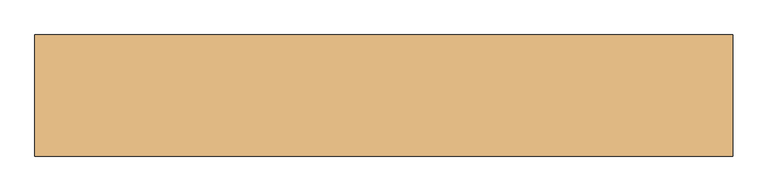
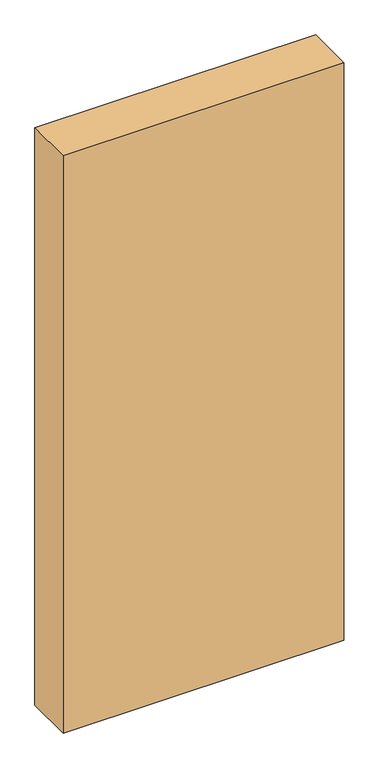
"""IFC4 building model written with IfcOpenShell, lengths in millimetres: door geometry, Dr_Проем-Простой : ДВ."""

import ifcopenshell
import ifcopenshell.guid

model = None  # the IFC model being written
_history = None  # IfcOwnerHistory: only IFC2X3 demands one
_inside = {}  # id of a spatial element -> (the spatial element, [elements in it])
_under = {}  # id of a project, library or spatial element -> (it, [spatial elements below it])
_declared = {}  # id of a project -> (the project, [libraries it declares])
_typed = {}  # id of a type object -> (the type object, [elements of that type])
_made_of = {}  # id of a material, layer set ... -> (it, [elements and type objects made of it])


def new_model(schema):
    """Start an empty IFC model of exactly this schema.

    Asked for "IFC4X3", IfcOpenShell would pick the latest addendum, in which some entities
    have other attributes; the version numbers below select the first issue.
    IFC2X3 requires an IfcOwnerHistory on every rooted entity: one is made here for all.
    """
    global model, _history
    if schema == "IFC4X3":
        model = ifcopenshell.file(schema_version=(4, 3, 0, 0))
    else:
        model = ifcopenshell.file(schema=schema)
    _inside.clear()
    _under.clear()
    _declared.clear()
    _typed.clear()
    _made_of.clear()
    _history = None
    if model.schema == "IFC2X3":
        org = make("IfcOrganization", Name="unknown")
        user = make(
            "IfcPersonAndOrganization",
            ThePerson=make("IfcPerson", FamilyName="unknown"),
            TheOrganization=org,
        )
        app = make(
            "IfcApplication",
            ApplicationDeveloper=org,
            Version="unknown",
            ApplicationFullName="unknown",
            ApplicationIdentifier="unknown",
        )
        _history = make(
            "IfcOwnerHistory",
            OwningUser=user,
            OwningApplication=app,
            ChangeAction="ADDED",
            CreationDate=0,
        )
    return model


def make(cls, **values):
    """One entity of the class cls with the attributes given. An attribute that is None is left unset."""
    return model.create_entity(
        cls, **{name: value for name, value in values.items() if value is not None}
    )


def rooted(cls, **values):
    """An entity with a GlobalId (a new one), such as an element, a storey or a relation."""
    return make(cls, GlobalId=ifcopenshell.guid.new(), OwnerHistory=_history, **values)


def si_unit(unit_type, name, prefix=None):
    """IfcSIUnit, for example si_unit("LENGTHUNIT", "METRE", prefix="MILLI")."""
    return make("IfcSIUnit", UnitType=unit_type, Prefix=prefix, Name=name)


def assignment(units):
    """IfcUnitAssignment: the units of a project."""
    return None if units is None else make("IfcUnitAssignment", Units=units)


def point(xyz):
    """IfcCartesianPoint."""
    return None if xyz is None else make("IfcCartesianPoint", Coordinates=xyz)


def direction(xyz):
    """IfcDirection."""
    return None if xyz is None else make("IfcDirection", DirectionRatios=xyz)


def frame(location, z_axis=None, x_axis=None):
    """IfcAxis2Placement3D, a coordinate frame: its origin and axes. An axis left out is left unset."""
    return make(
        "IfcAxis2Placement3D",
        Location=point(location),
        Axis=direction(z_axis),
        RefDirection=direction(x_axis),
    )


def origin():
    """The frame at (0, 0, 0) with its axes left unset."""
    return frame((0.0, 0.0, 0.0))


def place(relative_to, where):
    """IfcLocalPlacement: puts the frame where relative to a parent placement (None: the world)."""
    return make(
        "IfcLocalPlacement", PlacementRelTo=relative_to, RelativePlacement=where
    )


def context(
    kind, dimensions, precision=None, world=None, true_north=None, identifier=None
):
    """IfcGeometricRepresentationContext, for example the 3D "Model" context."""
    return make(
        "IfcGeometricRepresentationContext",
        ContextIdentifier=identifier,
        ContextType=kind,
        CoordinateSpaceDimension=dimensions,
        Precision=precision,
        WorldCoordinateSystem=world,
        TrueNorth=true_north,
    )


def project(units=None, contexts=None):
    """IfcProject with its units and contexts."""
    return rooted(
        "IfcProject",
        Name="project",
        RepresentationContexts=contexts,
        UnitsInContext=assignment(units),
    )


def spatial(cls, under=None, at=None, **own):
    """A site, building, storey or space (cls), placed at a placement, below another one or the project."""
    s = rooted(cls, ObjectPlacement=at, **own)
    if under is not None:
        _under.setdefault(under.id(), (under, []))[1].append(s)
    return s


def polyline(points):
    """IfcPolyline through the points."""
    return make("IfcPolyline", Points=[point(p) for p in points])


def outline(outer, holes=None, kind="AREA"):
    """IfcArbitraryClosedProfileDef: a profile drawn as a closed curve; with holes, ...WithVoids."""
    if holes is None:
        return make("IfcArbitraryClosedProfileDef", ProfileType=kind, OuterCurve=outer)
    return make(
        "IfcArbitraryProfileDefWithVoids",
        ProfileType=kind,
        OuterCurve=outer,
        InnerCurves=holes,
    )


def extrude(swept, where, along, depth):
    """IfcExtrudedAreaSolid: the profile swept, set in the frame where, extruded along a direction by depth."""
    return make(
        "IfcExtrudedAreaSolid",
        SweptArea=swept,
        Position=where,
        ExtrudedDirection=direction(along),
        Depth=depth,
    )


def shape(context_of_items, identifier, shape_type, items):
    """IfcShapeRepresentation: the items that make up one representation, for example the "Body"."""
    return make(
        "IfcShapeRepresentation",
        ContextOfItems=context_of_items,
        RepresentationIdentifier=identifier,
        RepresentationType=shape_type,
        Items=items,
    )


def source(mapping_origin, context_of_items, identifier, shape_type, items):
    """IfcRepresentationMap: a shape defined once, which mapped items show again and again."""
    return make(
        "IfcRepresentationMap",
        MappingOrigin=mapping_origin,
        MappedRepresentation=shape(context_of_items, identifier, shape_type, items),
    )


def transform(
    local_origin,
    x_axis=None,
    y_axis=None,
    z_axis=None,
    scale=None,
    scale2=None,
    scale3=None,
    uniform=True,
):
    """IfcCartesianTransformationOperator3D, or its non-uniform kind. x_axis, y_axis, z_axis: its Axis1, 2, 3."""
    if uniform:
        return make(
            "IfcCartesianTransformationOperator3D",
            Axis1=direction(x_axis),
            Axis2=direction(y_axis),
            LocalOrigin=point(local_origin),
            Scale=scale,
            Axis3=direction(z_axis),
        )
    return make(
        "IfcCartesianTransformationOperator3DnonUniform",
        Axis1=direction(x_axis),
        Axis2=direction(y_axis),
        LocalOrigin=point(local_origin),
        Scale=scale,
        Axis3=direction(z_axis),
        Scale2=scale2,
        Scale3=scale3,
    )


def mapped(mapping_source, mapping_target):
    """IfcMappedItem: shows the shape of a source again, moved by a transform."""
    return make(
        "IfcMappedItem", MappingSource=mapping_source, MappingTarget=mapping_target
    )


def made_of(thing, what):
    """Note that an element or type object is made of a material, layer set ...; save() writes the relation."""
    if what is not None:
        _made_of.setdefault(what.id(), (what, []))[1].append(thing)
    return thing


def element(
    cls,
    number,
    at=None,
    inside=None,
    cuts=None,
    type_object=None,
    material=None,
    context=None,
    identifier="Body",
    shape_type=None,
    held_by="IfcProductDefinitionShape",
    body=None,
    shapes=None,
    **own,
):
    """One element of the class cls, such as IfcWall. Its Tag is "e" and its number.

    at: its placement. inside: the storey or other place that contains it. cuts: it is an
    opening in that element (IfcRelVoidsElement). A single representation is given by context,
    identifier, shape_type and body (its items); several are given by shapes. held_by: the class
    of the entity that holds the representations. save() writes the other relations.
    """
    e = rooted(cls, Tag="e%d" % number, ObjectPlacement=at, **own)
    if body is not None:
        shapes = [shape(context, identifier, shape_type, body)]
    if shapes is not None:
        e.Representation = make(held_by, Representations=shapes)
    if inside is not None:
        _inside.setdefault(inside.id(), (inside, []))[1].append(e)
    if cuts is not None:
        rooted(
            "IfcRelVoidsElement", RelatingBuildingElement=cuts, RelatedOpeningElement=e
        )
    if type_object is not None:
        _typed.setdefault(type_object.id(), (type_object, []))[1].append(e)
    return made_of(e, material)


def aggregate(whole, parts):
    """IfcRelAggregates: a whole, such as a stair, and the parts it consists of."""
    return rooted("IfcRelAggregates", RelatingObject=whole, RelatedObjects=parts)


def save(model, path):
    """Write the relations noted so far, then the file.

    IfcRelAggregates (storeys below a building ...), IfcRelContainedInSpatialStructure (elements
    in a storey), IfcRelDefinesByType, IfcRelAssociatesMaterial and IfcRelDeclares: one each for
    every whole, place, type object, material and project.
    """
    for whole, parts in _under.values():
        aggregate(whole, parts)
    for where, things in _inside.values():
        rooted(
            "IfcRelContainedInSpatialStructure",
            RelatedElements=things,
            RelatingStructure=where,
        )
    for kind, things in _typed.values():
        rooted("IfcRelDefinesByType", RelatedObjects=things, RelatingType=kind)
    for what, things in _made_of.values():
        rooted("IfcRelAssociatesMaterial", RelatedObjects=things, RelatingMaterial=what)
    for by, libraries in _declared.values():
        rooted("IfcRelDeclares", RelatingContext=by, RelatedDefinitions=libraries)
    model.write(path)


def door_1f93f5fc(model_context):
    return source(origin(), model_context, "Body", "SweptSolid", [
        extrude(outline(polyline([(780.3230163, 100.0), (780.3230163, -100.0), (-369.6769837, -100.0), (-369.6769837, 100.0), (780.3230163, 100.0)])), frame((0.0, 0.0, -100.0), z_axis=(0.0, 0.0, 1.0), x_axis=(1.0, 0.0, 0.0)), (0.0, 0.0, 1.0), 2500.0),
    ])


if __name__ == "__main__":
    model = new_model("IFC4")
    model_context = context("Model", 3, world=origin())
    ifc_project = project(units=[si_unit("LENGTHUNIT", "METRE", prefix="MILLI")], contexts=[model_context])
    site = spatial("IfcSite", under=ifc_project)
    building = spatial("IfcBuilding", under=site)
    placement = place(None, origin())
    door_shape = door_1f93f5fc(model_context)
    element("IfcDoor", 1, ObjectType="Dr_Проем-Простой : ДВ", at=placement, inside=building, context=model_context, shape_type="MappedRepresentation", body=[
        mapped(door_shape, transform((0.0, 0.0, 0.0), x_axis=(1.0, 0.0, 0.0), y_axis=(0.0, 1.0, 0.0), z_axis=(0.0, 0.0, 1.0))),
    ])
    save(model, "model.ifc")
